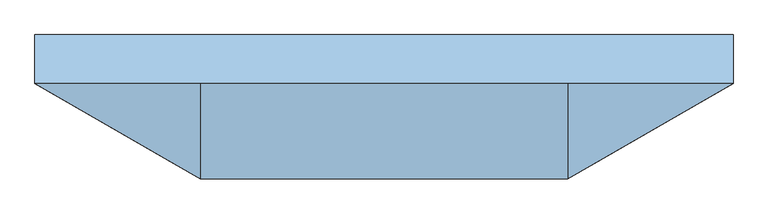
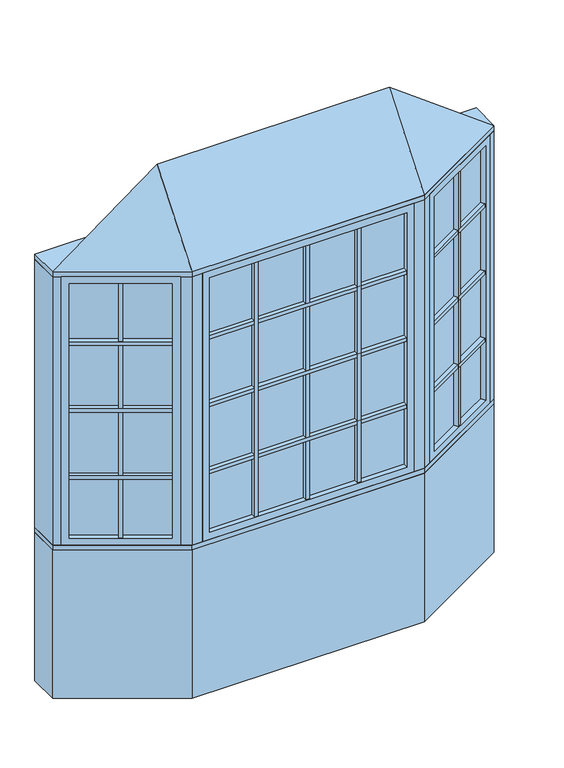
"""IFC4 building model written with IfcOpenShell, lengths in millimetres: window geometry, Pollard_Windows_Tudor Casement Bows and Bays : AML-BAY 30 AFR0514-12-500_GC."""

from ifc_helpers import new_model, si_unit, frame, origin, origin_with_axes, place, context, project, spatial, polyline, outline, extrude, faceted_brep, source, transform, mapped, element, save


def window_8796bc3a(model_context):
    return source(origin(), model_context, "Body", "SolidModel", [
        extrude(outline(polyline([(645.7305346, -327.3537343), (634.7305346, -308.3011754), (1015.6135794, -88.3982469), (1026.6135794, -107.4508058), (645.7305346, -327.3537343)])), frame((0.0, 0.0, 1490.998), z_axis=(0.0, 0.0, 1.0), x_axis=(1.0, 0.0, 0.0)), (0.0, 0.0, 1.0), 18.0),
        extrude(outline(polyline([(632.1905346, -303.9017664), (621.1905346, -284.8492075), (1002.0735794, -64.946279), (1013.0735794, -83.9988379), (632.1905346, -303.9017664)])), frame((0.0, 0.0, 1490.998), z_axis=(0.0, 0.0, 1.0), x_axis=(1.0, 0.0, 0.0)), (0.0, 0.0, 1.0), 18.0),
        extrude(outline(polyline([(645.7305346, -327.3537343), (634.7305346, -308.3011754), (1015.6135794, -88.3982469), (1026.6135794, -107.4508058), (645.7305346, -327.3537343)])), frame((0.0, 0.0, 1140.998), z_axis=(0.0, 0.0, 1.0), x_axis=(1.0, 0.0, 0.0)), (0.0, 0.0, 1.0), 18.0),
        extrude(outline(polyline([(632.1905346, -303.9017664), (621.1905346, -284.8492075), (1002.0735794, -64.946279), (1013.0735794, -83.9988379), (632.1905346, -303.9017664)])), frame((0.0, 0.0, 1140.998), z_axis=(0.0, 0.0, 1.0), x_axis=(1.0, 0.0, 0.0)), (0.0, 0.0, 1.0), 18.0),
        extrude(outline(polyline([(645.7305346, -327.3537343), (634.7305346, -308.3011754), (1015.6135794, -88.3982469), (1026.6135794, -107.4508058), (645.7305346, -327.3537343)])), frame((0.0, 0.0, 1490.998), z_axis=(0.0, 0.0, 1.0), x_axis=(1.0, 0.0, 0.0)), (0.0, 0.0, 1.0), 18.0),
        extrude(outline(polyline([(632.1905346, -303.9017664), (621.1905346, -284.8492075), (1002.0735794, -64.946279), (1013.0735794, -83.9988379), (632.1905346, -303.9017664)])), frame((0.0, 0.0, 1490.998), z_axis=(0.0, 0.0, 1.0), x_axis=(1.0, 0.0, 0.0)), (0.0, 0.0, 1.0), 18.0),
        extrude(outline(polyline([(645.7305346, -327.3537343), (634.7305346, -308.3011754), (1015.6135794, -88.3982469), (1026.6135794, -107.4508058), (645.7305346, -327.3537343)])), frame((0.0, 0.0, 1490.998), z_axis=(0.0, 0.0, 1.0), x_axis=(1.0, 0.0, 0.0)), (0.0, 0.0, 1.0), 18.0),
        extrude(outline(polyline([(632.1905346, -303.9017664), (621.1905346, -284.8492075), (1002.0735794, -64.946279), (1013.0735794, -83.9988379), (632.1905346, -303.9017664)])), frame((0.0, 0.0, 1490.998), z_axis=(0.0, 0.0, 1.0), x_axis=(1.0, 0.0, 0.0)), (0.0, 0.0, 1.0), 18.0),
        extrude(outline(polyline([(645.7305346, -327.3537343), (634.7305346, -308.3011754), (1015.6135794, -88.3982469), (1026.6135794, -107.4508058), (645.7305346, -327.3537343)])), frame((0.0, 0.0, 1840.998), z_axis=(0.0, 0.0, 1.0), x_axis=(1.0, 0.0, 0.0)), (0.0, 0.0, 1.0), 18.0),
        extrude(outline(polyline([(632.1905346, -303.9017664), (621.1905346, -284.8492075), (1002.0735794, -64.946279), (1013.0735794, -83.9988379), (632.1905346, -303.9017664)])), frame((0.0, 0.0, 1840.998), z_axis=(0.0, 0.0, 1.0), x_axis=(1.0, 0.0, 0.0)), (0.0, 0.0, 1.0), 18.0),
        extrude(outline(polyline([(832.9662856, -193.8497112), (843.9662856, -212.9022701), (828.3778284, -221.9022701), (817.3778284, -202.8497112), (832.9662856, -193.8497112)])), frame((0.0, 0.0, 835.8628), z_axis=(0.0, 0.0, 1.0), x_axis=(1.0, 0.0, 0.0)), (0.0, 0.0, 1.0), 1328.2704),
        extrude(outline(polyline([(830.4262856, -189.4503021), (814.8378284, -198.4503021), (803.8378284, -179.3977432), (819.4262856, -170.3977432), (830.4262856, -189.4503021)])), frame((0.0, 0.0, 835.8628), z_axis=(0.0, 0.0, 1.0), x_axis=(1.0, 0.0, 0.0)), (0.0, 0.0, 1.0), 1328.2704),
        extrude(outline(polyline([(1026.612102, -82.0482469), (623.7320119, -314.6511754), (621.1920119, -310.2517664), (1024.072102, -77.6488379), (1026.612102, -82.0482469)])), frame((0.0, 0.0, 823.1628), z_axis=(0.0, 0.0, 1.0), x_axis=(1.0, 0.0, 0.0)), (0.0, 0.0, 1.0), 1353.6704),
        faceted_brep([(1015.6135794, -88.3982469, 835.8628), (1028.3135794, -110.3952922, 835.8628), (1028.3135794, -110.3952922, 2164.1332), (1015.6135794, -88.3982469, 2164.1332), (1024.072102, -77.6488379, 823.1628), (1026.612102, -82.0482469, 823.1628), (1026.612102, -82.0482469, 2176.8332), (1024.072102, -77.6488379, 2176.8332), (1000.3735794, -62.0017926, 835.8628), (1013.0735794, -83.9988379, 835.8628), (1013.0735794, -83.9988379, 2164.1332), (1000.3735794, -62.0017926, 2164.1332), (1059.3734073, -92.4628922, 799.998), (1031.4334073, -44.0693926, 799.998), (1031.4334073, -44.0693926, 2199.998), (1059.3734073, -92.4628922, 2199.998), (647.4305346, -330.2982207, 2164.1332), (634.7305346, -308.3011754, 2164.1332), (623.7320119, -314.6511754, 2176.8332), (621.1920119, -310.2517664, 2176.8332), (632.1905346, -303.9017664, 2164.1332), (619.4905346, -281.9047211, 2164.1332), (588.4307067, -299.8371211, 2199.998), (616.3707067, -348.2306207, 2199.998), (647.4305346, -330.2982207, 835.8628), (634.7305346, -308.3011754, 835.8628), (623.7320119, -314.6511754, 823.1628), (621.1920119, -310.2517664, 823.1628), (632.1905346, -303.9017664, 835.8628), (619.4905346, -281.9047211, 835.8628), (588.4307067, -299.8371211, 799.998), (616.3707067, -348.2306207, 799.998)], [[[0, 1, 2, 3]], [[4, 5, 6, 7]], [[8, 9, 10, 11]], [[12, 13, 14, 15]], [[3, 2, 16, 17]], [[7, 6, 18, 19]], [[11, 10, 20, 21]], [[15, 14, 22, 23]], [[17, 16, 24, 25]], [[19, 18, 26, 27]], [[21, 20, 28, 29]], [[23, 22, 30, 31]], [[25, 24, 1, 0]], [[5, 26, 18, 6], [3, 17, 25, 0]], [[27, 26, 5, 4]], [[7, 19, 27, 4], [9, 28, 20, 10]], [[29, 28, 9, 8]], [[13, 30, 22, 14], [11, 21, 29, 8]], [[31, 30, 13, 12]], [[15, 23, 31, 12], [1, 24, 16, 2]]]),
        extrude(outline(polyline([(263.4524182, -347.8306207), (263.4524182, -369.8306207), (245.4524182, -369.8306207), (245.4524182, -347.8306207), (263.4524182, -347.8306207)])), frame((0.0, 0.0, 835.8628), z_axis=(0.0, 0.0, 1.0), x_axis=(1.0, 0.0, 0.0)), (0.0, 0.0, 1.0), 1328.2704),
        extrude(outline(polyline([(263.4524182, -342.7506207), (245.4524182, -342.7506207), (245.4524182, -320.7506207), (263.4524182, -320.7506207), (263.4524182, -342.7506207)])), frame((0.0, 0.0, 835.8628), z_axis=(0.0, 0.0, 1.0), x_axis=(1.0, 0.0, 0.0)), (0.0, 0.0, 1.0), 1328.2704),
        extrude(outline(polyline([(-245.4524182, -347.8306207), (-245.4524182, -369.8306207), (-263.4524182, -369.8306207), (-263.4524182, -347.8306207), (-245.4524182, -347.8306207)])), frame((0.0, 0.0, 835.8628), z_axis=(0.0, 0.0, 1.0), x_axis=(1.0, 0.0, 0.0)), (0.0, 0.0, 1.0), 1328.2704),
        extrude(outline(polyline([(-245.4524182, -342.7506207), (-263.4524182, -342.7506207), (-263.4524182, -320.7506207), (-245.4524182, -320.7506207), (-245.4524182, -342.7506207)])), frame((0.0, 0.0, 835.8628), z_axis=(0.0, 0.0, 1.0), x_axis=(1.0, 0.0, 0.0)), (0.0, 0.0, 1.0), 1328.2704),
        extrude(outline(polyline([(-487.2046365, -369.8306207), (-487.2046365, -347.8306207), (487.2046365, -347.8306207), (487.2046365, -369.8306207), (-487.2046365, -369.8306207)])), frame((0.0, 0.0, 1140.998), z_axis=(0.0, 0.0, 1.0), x_axis=(1.0, 0.0, 0.0)), (0.0, 0.0, 1.0), 18.0),
        extrude(outline(polyline([(-487.2046365, -342.7506207), (-487.2046365, -320.7506207), (487.2046365, -320.7506207), (487.2046365, -342.7506207), (-487.2046365, -342.7506207)])), frame((0.0, 0.0, 1140.998), z_axis=(0.0, 0.0, 1.0), x_axis=(1.0, 0.0, 0.0)), (0.0, 0.0, 1.0), 18.0),
        extrude(outline(polyline([(-487.2046365, -369.8306207), (-487.2046365, -347.8306207), (487.2046365, -347.8306207), (487.2046365, -369.8306207), (-487.2046365, -369.8306207)])), frame((0.0, 0.0, 1490.998), z_axis=(0.0, 0.0, 1.0), x_axis=(1.0, 0.0, 0.0)), (0.0, 0.0, 1.0), 18.0),
        extrude(outline(polyline([(-487.2046365, -342.7506207), (-487.2046365, -320.7506207), (487.2046365, -320.7506207), (487.2046365, -342.7506207), (-487.2046365, -342.7506207)])), frame((0.0, 0.0, 1490.998), z_axis=(0.0, 0.0, 1.0), x_axis=(1.0, 0.0, 0.0)), (0.0, 0.0, 1.0), 18.0),
        extrude(outline(polyline([(-487.2046365, -369.8306207), (-487.2046365, -347.8306207), (487.2046365, -347.8306207), (487.2046365, -369.8306207), (-487.2046365, -369.8306207)])), frame((0.0, 0.0, 1490.998), z_axis=(0.0, 0.0, 1.0), x_axis=(1.0, 0.0, 0.0)), (0.0, 0.0, 1.0), 18.0),
        extrude(outline(polyline([(-487.2046365, -342.7506207), (-487.2046365, -320.7506207), (487.2046365, -320.7506207), (487.2046365, -342.7506207), (-487.2046365, -342.7506207)])), frame((0.0, 0.0, 1490.998), z_axis=(0.0, 0.0, 1.0), x_axis=(1.0, 0.0, 0.0)), (0.0, 0.0, 1.0), 18.0),
        extrude(outline(polyline([(-487.2046365, -369.8306207), (-487.2046365, -347.8306207), (487.2046365, -347.8306207), (487.2046365, -369.8306207), (-487.2046365, -369.8306207)])), frame((0.0, 0.0, 1490.998), z_axis=(0.0, 0.0, 1.0), x_axis=(1.0, 0.0, 0.0)), (0.0, 0.0, 1.0), 18.0),
        extrude(outline(polyline([(-487.2046365, -342.7506207), (-487.2046365, -320.7506207), (487.2046365, -320.7506207), (487.2046365, -342.7506207), (-487.2046365, -342.7506207)])), frame((0.0, 0.0, 1490.998), z_axis=(0.0, 0.0, 1.0), x_axis=(1.0, 0.0, 0.0)), (0.0, 0.0, 1.0), 18.0),
        extrude(outline(polyline([(-1026.6135794, -107.4508058), (-1015.6135794, -88.3982469), (-634.7305346, -308.3011754), (-645.7305346, -327.3537343), (-1026.6135794, -107.4508058)])), frame((0.0, 0.0, 1140.998), z_axis=(0.0, 0.0, 1.0), x_axis=(1.0, 0.0, 0.0)), (0.0, 0.0, 1.0), 18.0),
        extrude(outline(polyline([(-1013.0735794, -83.9988379), (-1002.0735794, -64.946279), (-621.1905346, -284.8492075), (-632.1905346, -303.9017664), (-1013.0735794, -83.9988379)])), frame((0.0, 0.0, 1140.998), z_axis=(0.0, 0.0, 1.0), x_axis=(1.0, 0.0, 0.0)), (0.0, 0.0, 1.0), 18.0),
        extrude(outline(polyline([(-1026.6135794, -107.4508058), (-1015.6135794, -88.3982469), (-634.7305346, -308.3011754), (-645.7305346, -327.3537343), (-1026.6135794, -107.4508058)])), frame((0.0, 0.0, 1490.998), z_axis=(0.0, 0.0, 1.0), x_axis=(1.0, 0.0, 0.0)), (0.0, 0.0, 1.0), 18.0),
        extrude(outline(polyline([(-1013.0735794, -83.9988379), (-1002.0735794, -64.946279), (-621.1905346, -284.8492075), (-632.1905346, -303.9017664), (-1013.0735794, -83.9988379)])), frame((0.0, 0.0, 1490.998), z_axis=(0.0, 0.0, 1.0), x_axis=(1.0, 0.0, 0.0)), (0.0, 0.0, 1.0), 18.0),
        extrude(outline(polyline([(-1026.6135794, -107.4508058), (-1015.6135794, -88.3982469), (-634.7305346, -308.3011754), (-645.7305346, -327.3537343), (-1026.6135794, -107.4508058)])), frame((0.0, 0.0, 1490.998), z_axis=(0.0, 0.0, 1.0), x_axis=(1.0, 0.0, 0.0)), (0.0, 0.0, 1.0), 18.0),
        extrude(outline(polyline([(-1013.0735794, -83.9988379), (-1002.0735794, -64.946279), (-621.1905346, -284.8492075), (-632.1905346, -303.9017664), (-1013.0735794, -83.9988379)])), frame((0.0, 0.0, 1490.998), z_axis=(0.0, 0.0, 1.0), x_axis=(1.0, 0.0, 0.0)), (0.0, 0.0, 1.0), 18.0),
        extrude(outline(polyline([(-1026.6135794, -107.4508058), (-1015.6135794, -88.3982469), (-634.7305346, -308.3011754), (-645.7305346, -327.3537343), (-1026.6135794, -107.4508058)])), frame((0.0, 0.0, 1490.998), z_axis=(0.0, 0.0, 1.0), x_axis=(1.0, 0.0, 0.0)), (0.0, 0.0, 1.0), 18.0),
        extrude(outline(polyline([(-1013.0735794, -83.9988379), (-1002.0735794, -64.946279), (-621.1905346, -284.8492075), (-632.1905346, -303.9017664), (-1013.0735794, -83.9988379)])), frame((0.0, 0.0, 1490.998), z_axis=(0.0, 0.0, 1.0), x_axis=(1.0, 0.0, 0.0)), (0.0, 0.0, 1.0), 18.0),
        extrude(outline(polyline([(-1026.6135794, -107.4508058), (-1015.6135794, -88.3982469), (-634.7305346, -308.3011754), (-645.7305346, -327.3537343), (-1026.6135794, -107.4508058)])), frame((0.0, 0.0, 1840.998), z_axis=(0.0, 0.0, 1.0), x_axis=(1.0, 0.0, 0.0)), (0.0, 0.0, 1.0), 18.0),
        extrude(outline(polyline([(-1013.0735794, -83.9988379), (-1002.0735794, -64.946279), (-621.1905346, -284.8492075), (-632.1905346, -303.9017664), (-1013.0735794, -83.9988379)])), frame((0.0, 0.0, 1840.998), z_axis=(0.0, 0.0, 1.0), x_axis=(1.0, 0.0, 0.0)), (0.0, 0.0, 1.0), 18.0),
        extrude(outline(polyline([(-487.2046365, -369.8306207), (-487.2046365, -347.8306207), (487.2046365, -347.8306207), (487.2046365, -369.8306207), (-487.2046365, -369.8306207)])), frame((0.0, 0.0, 1840.998), z_axis=(0.0, 0.0, 1.0), x_axis=(1.0, 0.0, 0.0)), (0.0, 0.0, 1.0), 18.0),
        extrude(outline(polyline([(-487.2046365, -342.7506207), (-487.2046365, -320.7506207), (487.2046365, -320.7506207), (487.2046365, -342.7506207), (-487.2046365, -342.7506207)])), frame((0.0, 0.0, 1840.998), z_axis=(0.0, 0.0, 1.0), x_axis=(1.0, 0.0, 0.0)), (0.0, 0.0, 1.0), 18.0),
        extrude(outline(polyline([(-817.3778284, -202.8497112), (-828.3778284, -221.9022701), (-843.9662856, -212.9022701), (-832.9662856, -193.8497112), (-817.3778284, -202.8497112)])), frame((0.0, 0.0, 835.8628), z_axis=(0.0, 0.0, 1.0), x_axis=(1.0, 0.0, 0.0)), (0.0, 0.0, 1.0), 1328.2704),
        extrude(outline(polyline([(-814.8378284, -198.4503021), (-830.4262856, -189.4503021), (-819.4262856, -170.3977432), (-803.8378284, -179.3977432), (-814.8378284, -198.4503021)])), frame((0.0, 0.0, 835.8628), z_axis=(0.0, 0.0, 1.0), x_axis=(1.0, 0.0, 0.0)), (0.0, 0.0, 1.0), 1328.2704),
        extrude(outline(polyline([(9.0, -347.8306207), (9.0, -369.8306207), (-9.0, -369.8306207), (-9.0, -347.8306207), (9.0, -347.8306207)])), frame((0.0, 0.0, 835.8628), z_axis=(0.0, 0.0, 1.0), x_axis=(1.0, 0.0, 0.0)), (0.0, 0.0, 1.0), 1328.2704),
        extrude(outline(polyline([(9.0, -342.7506207), (-9.0, -342.7506207), (-9.0, -320.7506207), (9.0, -320.7506207), (9.0, -342.7506207)])), frame((0.0, 0.0, 835.8628), z_axis=(0.0, 0.0, 1.0), x_axis=(1.0, 0.0, 0.0)), (0.0, 0.0, 1.0), 1328.2704),
        extrude(outline(polyline([(-623.7320119, -314.6511754), (-1026.612102, -82.0482469), (-1024.072102, -77.6488379), (-621.1920119, -310.2517664), (-623.7320119, -314.6511754)])), frame((0.0, 0.0, 823.1628), z_axis=(0.0, 0.0, 1.0), x_axis=(1.0, 0.0, 0.0)), (0.0, 0.0, 1.0), 1353.6704),
        faceted_brep([(-632.1905346, -303.9017664, 2164.1332), (-619.4905346, -281.9047211, 2164.1332), (-619.4905346, -281.9047211, 835.8628), (-632.1905346, -303.9017664, 835.8628), (-623.7320119, -314.6511754, 2176.8332), (-621.1920119, -310.2517664, 2176.8332), (-621.1920119, -310.2517664, 823.1628), (-623.7320119, -314.6511754, 823.1628), (-647.4305346, -330.2982207, 2164.1332), (-634.7305346, -308.3011754, 2164.1332), (-634.7305346, -308.3011754, 835.8628), (-647.4305346, -330.2982207, 835.8628), (-588.4307067, -299.8371211, 2199.998), (-616.3707067, -348.2306207, 2199.998), (-616.3707067, -348.2306207, 799.998), (-588.4307067, -299.8371211, 799.998), (-1000.3735794, -62.0017926, 835.8628), (-1013.0735794, -83.9988379, 835.8628), (-1024.072102, -77.6488379, 823.1628), (-1026.612102, -82.0482469, 823.1628), (-1015.6135794, -88.3982469, 835.8628), (-1028.3135794, -110.3952922, 835.8628), (-1059.3734073, -92.4628922, 799.998), (-1031.4334073, -44.0693926, 799.998), (-1000.3735794, -62.0017926, 2164.1332), (-1013.0735794, -83.9988379, 2164.1332), (-1024.072102, -77.6488379, 2176.8332), (-1026.612102, -82.0482469, 2176.8332), (-1015.6135794, -88.3982469, 2164.1332), (-1028.3135794, -110.3952922, 2164.1332), (-1059.3734073, -92.4628922, 2199.998), (-1031.4334073, -44.0693926, 2199.998)], [[[0, 1, 2, 3]], [[4, 5, 6, 7]], [[8, 9, 10, 11]], [[12, 13, 14, 15]], [[3, 2, 16, 17]], [[7, 6, 18, 19]], [[11, 10, 20, 21]], [[15, 14, 22, 23]], [[17, 16, 24, 25]], [[19, 18, 26, 27]], [[21, 20, 28, 29]], [[23, 22, 30, 31]], [[15, 23, 31, 12], [1, 24, 16, 2]], [[25, 24, 1, 0]], [[5, 26, 18, 6], [3, 17, 25, 0]], [[27, 26, 5, 4]], [[7, 19, 27, 4], [9, 28, 20, 10]], [[29, 28, 9, 8]], [[13, 30, 22, 14], [11, 21, 29, 8]], [[31, 30, 13, 12]]]),
        extrude(outline(polyline([(499.9046365, -347.8306207), (-499.9046365, -347.8306207), (-499.9046365, -342.7506207), (499.9046365, -342.7506207), (499.9046365, -347.8306207)])), frame((0.0, 0.0, 823.1628), z_axis=(0.0, 0.0, 1.0), x_axis=(1.0, 0.0, 0.0)), (0.0, 0.0, 1.0), 1353.6704),
        faceted_brep([(487.2046365, -347.8306207, 835.8628), (487.2046365, -373.2306207, 835.8628), (487.2046365, -373.2306207, 2164.1332), (487.2046365, -347.8306207, 2164.1332), (499.9046365, -342.7506207, 823.1628), (499.9046365, -347.8306207, 823.1628), (499.9046365, -347.8306207, 2176.8332), (499.9046365, -342.7506207, 2176.8332), (487.2046365, -317.3506207, 835.8628), (487.2046365, -342.7506207, 835.8628), (487.2046365, -342.7506207, 2164.1332), (487.2046365, -317.3506207, 2164.1332), (523.0694365, -373.2306207, 799.998), (523.0694365, -317.3506207, 799.998), (523.0694365, -317.3506207, 2199.998), (523.0694365, -373.2306207, 2199.998), (-487.2046365, -373.2306207, 2164.1332), (-487.2046365, -347.8306207, 2164.1332), (-499.9046365, -347.8306207, 2176.8332), (-499.9046365, -342.7506207, 2176.8332), (-487.2046365, -342.7506207, 2164.1332), (-487.2046365, -317.3506207, 2164.1332), (-523.0694365, -317.3506207, 2199.998), (-523.0694365, -373.2306207, 2199.998), (-487.2046365, -373.2306207, 835.8628), (-487.2046365, -347.8306207, 835.8628), (-499.9046365, -347.8306207, 823.1628), (-499.9046365, -342.7506207, 823.1628), (-487.2046365, -342.7506207, 835.8628), (-487.2046365, -317.3506207, 835.8628), (-523.0694365, -317.3506207, 799.998), (-523.0694365, -373.2306207, 799.998)], [[[0, 1, 2, 3]], [[4, 5, 6, 7]], [[8, 9, 10, 11]], [[12, 13, 14, 15]], [[3, 2, 16, 17]], [[7, 6, 18, 19]], [[11, 10, 20, 21]], [[15, 14, 22, 23]], [[17, 16, 24, 25]], [[19, 18, 26, 27]], [[21, 20, 28, 29]], [[23, 22, 30, 31]], [[15, 23, 31, 12], [1, 24, 16, 2]], [[25, 24, 1, 0]], [[5, 26, 18, 6], [3, 17, 25, 0]], [[27, 26, 5, 4]], [[7, 19, 27, 4], [9, 28, 20, 10]], [[29, 28, 9, 8]], [[13, 30, 22, 14], [11, 21, 29, 8]], [[31, 30, 13, 12]]]),
        faceted_brep([(1090.0, -74.7806207, 2225.398), (573.0694365, -373.2306207, 2225.398), (-573.0694365, -373.2306207, 2225.398), (-1090.0, -74.7806207, 2225.398), (-573.0694365, -74.7806207, 2606.398), (573.0694365, -74.7806207, 2606.398)], [[[0, 1, 2, 3]], [[3, 2, 4]], [[2, 1, 5, 4]], [[1, 0, 5]], [[0, 3, 4, 5]]]),
        extrude(outline(polyline([(-1090.0, 77.6193793), (1090.0, 77.6193793), (1090.0, -74.7806207), (573.0694365, -373.2306207), (-573.0694365, -373.2306207), (-1090.0, -74.7806207), (-1090.0, 77.6193793)])), frame((0.0, 0.0, 2199.998), z_axis=(0.0, 0.0, 1.0), x_axis=(1.0, 0.0, 0.0)), (0.0, 0.0, 1.0), 25.4),
        extrude(outline(polyline([(-1090.0, -74.7806207), (-1090.0, 77.6193793), (-1049.1645431, 77.6193793), (-1049.1645431, -74.7806207), (-1059.3734073, -92.4628922), (-1090.0, -74.7806207)])), frame((0.0, 0.0, 799.998), z_axis=(0.0, 0.0, 1.0), x_axis=(1.0, 0.0, 0.0)), (0.0, 0.0, 1.0), 1400.0),
        extrude(outline(polyline([(1090.0, 77.6193793), (1090.0, -74.7806207), (1059.3734073, -92.4628922), (1049.1645431, -74.7806207), (1049.1645431, 77.6193793), (1090.0, 77.6193793)])), frame((0.0, 0.0, 799.998), z_axis=(0.0, 0.0, 1.0), x_axis=(1.0, 0.0, 0.0)), (0.0, 0.0, 1.0), 1400.0),
        extrude(outline(polyline([(573.0694365, -373.2306207), (523.0694365, -373.2306207), (523.0694365, -323.2306207), (559.6719769, -323.2306207), (591.3707067, -304.9293505), (616.3707067, -348.2306207), (573.0694365, -373.2306207)])), frame((0.0, 0.0, 799.998), z_axis=(0.0, 0.0, 1.0), x_axis=(1.0, 0.0, 0.0)), (0.0, 0.0, 1.0), 1400.0),
        extrude(outline(polyline([(-573.0694365, -373.2306207), (-616.3707067, -348.2306207), (-591.3707067, -304.9293505), (-559.6719769, -323.2306207), (-523.0694365, -323.2306207), (-523.0694365, -373.2306207), (-573.0694365, -373.2306207)])), frame((0.0, 0.0, 799.998), z_axis=(0.0, 0.0, 1.0), x_axis=(1.0, 0.0, 0.0)), (0.0, 0.0, 1.0), 1400.0),
        extrude(outline(polyline([(-573.0694365, -373.2306207), (-1090.0, -74.7806207), (-1090.0, 77.6193793), (-1049.1645431, 77.6193793), (-532.2339796, -220.8306207), (532.2339796, -220.8306207), (1049.1645431, 77.6193793), (1090.0, 77.6193793), (1090.0, -74.7806207), (573.0694365, -373.2306207), (-573.0694365, -373.2306207)])), frame((0.0, 0.0, 774.598), z_axis=(0.0, 0.0, 1.0), x_axis=(1.0, 0.0, 0.0)), (0.0, 0.0, 1.0), 25.4),
        extrude(outline(polyline([(-1090.0, -74.7806207), (-1090.0, 77.6193793), (-1049.1645431, 77.6193793), (-532.2339796, -220.8306207), (532.2339796, -220.8306207), (1049.1645431, 77.6193793), (1090.0, 77.6193793), (1090.0, -74.7806207), (573.0694365, -373.2306207), (-573.0694365, -373.2306207), (-1090.0, -74.7806207)])), origin_with_axes(), (0.0, 0.0, 1.0), 774.598),
    ])


if __name__ == "__main__":
    model = new_model("IFC4")
    model_context = context("Model", 3, world=origin())
    ifc_project = project(units=[si_unit("LENGTHUNIT", "METRE", prefix="MILLI")], contexts=[model_context])
    site = spatial("IfcSite", under=ifc_project)
    building = spatial("IfcBuilding", under=site)
    placement = place(None, origin())
    window_shape = window_8796bc3a(model_context)
    element("IfcWindow", 1, ObjectType="Pollard_Windows_Tudor Casement Bows and Bays : AML-BAY 30 AFR0514-12-500_GC", at=placement, inside=building, context=model_context, shape_type="MappedRepresentation", body=[
        mapped(window_shape, transform((0.0, 0.0, 0.0), x_axis=(1.0, 0.0, 0.0), y_axis=(0.0, 1.0, 0.0), z_axis=(0.0, 0.0, 1.0))),
    ])
    save(model, "model.ifc")
